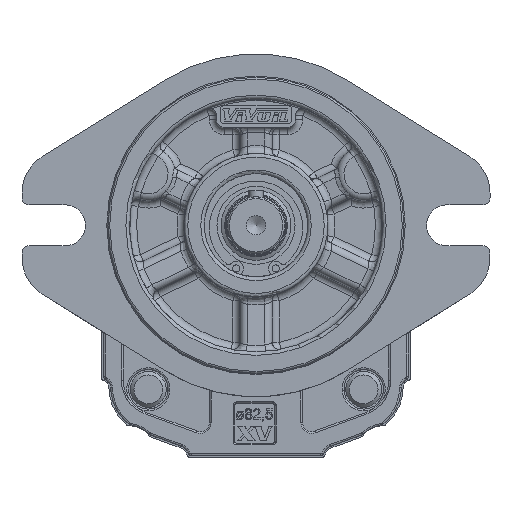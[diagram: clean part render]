
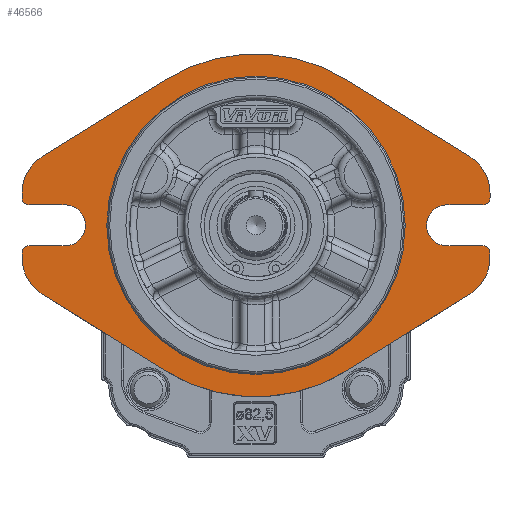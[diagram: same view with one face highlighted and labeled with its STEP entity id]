
A CAD part, front view. The second image highlights one B-rep face of the part: STEP entity #46566.
In plain terms, the highlighted planar face has unit normal (0, -1, 0).
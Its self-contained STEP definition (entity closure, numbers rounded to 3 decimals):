
#2719=LINE('',#65020,#4750);
#2723=LINE('',#65032,#4754);
#2724=LINE('',#65034,#4755);
#2731=LINE('',#65053,#4762);
#2732=LINE('',#65055,#4763);
#2739=LINE('',#65084,#4770);
#2740=LINE('',#65089,#4771);
#2741=LINE('',#65093,#4772);
#2742=LINE('',#65096,#4773);
#2743=LINE('',#65100,#4774);
#2744=LINE('',#65104,#4775);
#2745=LINE('',#65108,#4776);
#4750=VECTOR('',#53579,1000.);
#4754=VECTOR('',#53591,1000.);
#4755=VECTOR('',#53594,1000.);
#4762=VECTOR('',#53609,1000.);
#4763=VECTOR('',#53612,1000.);
#4770=VECTOR('',#53641,1000.);
#4771=VECTOR('',#53644,1000.);
#4772=VECTOR('',#53647,1000.);
#4773=VECTOR('',#53652,1000.);
#4774=VECTOR('',#53655,1000.);
#4775=VECTOR('',#53658,1000.);
#4776=VECTOR('',#53661,1000.);
#6400=PLANE('',#49009);
#9890=ORIENTED_EDGE('',*,*,#18593,.T.);
#9891=ORIENTED_EDGE('',*,*,#18594,.F.);
#9892=ORIENTED_EDGE('',*,*,#18595,.T.);
#9893=ORIENTED_EDGE('',*,*,#18596,.F.);
#9894=ORIENTED_EDGE('',*,*,#18597,.F.);
#9895=ORIENTED_EDGE('',*,*,#18598,.F.);
#9896=ORIENTED_EDGE('',*,*,#18514,.F.);
#9897=ORIENTED_EDGE('',*,*,#18563,.F.);
#9898=ORIENTED_EDGE('',*,*,#18566,.F.);
#9899=ORIENTED_EDGE('',*,*,#18569,.F.);
#9900=ORIENTED_EDGE('',*,*,#18599,.T.);
#9901=ORIENTED_EDGE('',*,*,#18570,.F.);
#9902=ORIENTED_EDGE('',*,*,#18576,.F.);
#9903=ORIENTED_EDGE('',*,*,#18579,.F.);
#9904=ORIENTED_EDGE('',*,*,#18600,.T.);
#9905=ORIENTED_EDGE('',*,*,#18580,.F.);
#9906=ORIENTED_EDGE('',*,*,#18592,.F.);
#9907=ORIENTED_EDGE('',*,*,#18601,.F.);
#9908=ORIENTED_EDGE('',*,*,#18602,.F.);
#9909=ORIENTED_EDGE('',*,*,#18603,.F.);
#9910=ORIENTED_EDGE('',*,*,#18604,.F.);
#9911=ORIENTED_EDGE('',*,*,#18605,.F.);
#9912=ORIENTED_EDGE('',*,*,#18606,.T.);
#9913=ORIENTED_EDGE('',*,*,#18607,.F.);
#9914=ORIENTED_EDGE('',*,*,#18608,.F.);
#18514=EDGE_CURVE('',#23013,#23014,#25601,.T.);
#18563=EDGE_CURVE('',#23056,#23013,#2719,.T.);
#18566=EDGE_CURVE('',#23058,#23056,#25629,.T.);
#18569=EDGE_CURVE('',#23060,#23058,#2723,.T.);
#18570=EDGE_CURVE('',#23061,#23062,#2724,.T.);
#18576=EDGE_CURVE('',#23066,#23061,#25631,.T.);
#18579=EDGE_CURVE('',#23068,#23066,#2731,.T.);
#18580=EDGE_CURVE('',#23069,#23070,#2732,.T.);
#18592=EDGE_CURVE('',#23078,#23069,#25637,.T.);
#18593=EDGE_CURVE('',#23079,#23079,#25638,.T.);
#18594=EDGE_CURVE('',#23080,#23081,#2739,.T.);
#18595=EDGE_CURVE('',#23080,#23082,#25639,.F.);
#18596=EDGE_CURVE('',#23083,#23082,#2740,.T.);
#18597=EDGE_CURVE('',#23084,#23083,#25640,.T.);
#18598=EDGE_CURVE('',#23014,#23084,#2741,.T.);
#18599=EDGE_CURVE('',#23060,#23062,#25641,.F.);
#18600=EDGE_CURVE('',#23068,#23070,#25642,.F.);
#18601=EDGE_CURVE('',#23085,#23078,#2742,.T.);
#18602=EDGE_CURVE('',#23086,#23085,#25643,.T.);
#18603=EDGE_CURVE('',#23087,#23086,#2743,.T.);
#18604=EDGE_CURVE('',#23088,#23087,#25644,.T.);
#18605=EDGE_CURVE('',#23089,#23088,#2744,.T.);
#18606=EDGE_CURVE('',#23089,#23090,#25645,.F.);
#18607=EDGE_CURVE('',#23091,#23090,#2745,.T.);
#18608=EDGE_CURVE('',#23081,#23091,#25646,.T.);
#23013=VERTEX_POINT('',#64920);
#23014=VERTEX_POINT('',#64922);
#23056=VERTEX_POINT('',#65019);
#23058=VERTEX_POINT('',#65025);
#23060=VERTEX_POINT('',#65031);
#23061=VERTEX_POINT('',#65035);
#23062=VERTEX_POINT('',#65036);
#23066=VERTEX_POINT('',#65046);
#23068=VERTEX_POINT('',#65052);
#23069=VERTEX_POINT('',#65056);
#23070=VERTEX_POINT('',#65057);
#23078=VERTEX_POINT('',#65079);
#23079=VERTEX_POINT('',#65083);
#23080=VERTEX_POINT('',#65085);
#23081=VERTEX_POINT('',#65086);
#23082=VERTEX_POINT('',#65088);
#23083=VERTEX_POINT('',#65090);
#23084=VERTEX_POINT('',#65092);
#23085=VERTEX_POINT('',#65097);
#23086=VERTEX_POINT('',#65099);
#23087=VERTEX_POINT('',#65101);
#23088=VERTEX_POINT('',#65103);
#23089=VERTEX_POINT('',#65105);
#23090=VERTEX_POINT('',#65107);
#23091=VERTEX_POINT('',#65109);
#25601=CIRCLE('',#48958,47.75);
#25629=CIRCLE('',#48992,12.);
#25631=CIRCLE('',#48997,5.7);
#25637=CIRCLE('',#49008,12.);
#25638=CIRCLE('',#49010,40.982);
#25639=CIRCLE('',#49011,2.);
#25640=CIRCLE('',#49012,12.);
#25641=CIRCLE('',#49013,2.);
#25642=CIRCLE('',#49014,2.);
#25643=CIRCLE('',#49015,47.75);
#25644=CIRCLE('',#49016,12.);
#25645=CIRCLE('',#49017,2.);
#25646=CIRCLE('',#49018,5.7);
#27283=EDGE_LOOP('',(#9890));
#27284=EDGE_LOOP('',(#9891,#9892,#9893,#9894,#9895,#9896,#9897,#9898,#9899,
#9900,#9901,#9902,#9903,#9904,#9905,#9906,#9907,#9908,#9909,#9910,#9911,
#9912,#9913,#9914));
#29550=FACE_BOUND('',#27283,.T.);
#29551=FACE_BOUND('',#27284,.T.);
#46566=ADVANCED_FACE('',(#29550,#29551),#6400,.F.);
#48958=AXIS2_PLACEMENT_3D('',#64921,#53495,#53496);
#48992=AXIS2_PLACEMENT_3D('',#65026,#53585,#53586);
#48997=AXIS2_PLACEMENT_3D('',#65047,#53603,#53604);
#49008=AXIS2_PLACEMENT_3D('',#65080,#53635,#53636);
#49009=AXIS2_PLACEMENT_3D('',#65081,#53637,#53638);
#49010=AXIS2_PLACEMENT_3D('',#65082,#53639,#53640);
#49011=AXIS2_PLACEMENT_3D('',#65087,#53642,#53643);
#49012=AXIS2_PLACEMENT_3D('',#65091,#53645,#53646);
#49013=AXIS2_PLACEMENT_3D('',#65094,#53648,#53649);
#49014=AXIS2_PLACEMENT_3D('',#65095,#53650,#53651);
#49015=AXIS2_PLACEMENT_3D('',#65098,#53653,#53654);
#49016=AXIS2_PLACEMENT_3D('',#65102,#53656,#53657);
#49017=AXIS2_PLACEMENT_3D('',#65106,#53659,#53660);
#49018=AXIS2_PLACEMENT_3D('',#65110,#53662,#53663);
#53495=DIRECTION('',(0.,1.,0.));
#53496=DIRECTION('',(-1.,0.,0.));
#53579=DIRECTION('',(-0.849,0.,-0.528));
#53585=DIRECTION('',(0.,1.,0.));
#53586=DIRECTION('',(-1.,0.,0.));
#53591=DIRECTION('',(0.,0.,-1.));
#53594=DIRECTION('',(1.,0.,0.));
#53603=DIRECTION('',(0.,-1.,0.));
#53604=DIRECTION('',(1.,0.,0.));
#53609=DIRECTION('',(-1.,0.,0.));
#53612=DIRECTION('',(0.,0.,-1.));
#53635=DIRECTION('',(0.,1.,0.));
#53636=DIRECTION('',(-1.,0.,0.));
#53637=DIRECTION('',(0.,1.,0.));
#53638=DIRECTION('',(0.,0.,-1.));
#53639=DIRECTION('',(0.,1.,0.));
#53640=DIRECTION('',(-1.,0.,0.));
#53641=DIRECTION('',(1.,0.,0.));
#53642=DIRECTION('',(0.,1.,0.));
#53643=DIRECTION('',(0.,0.,-1.));
#53644=DIRECTION('',(0.,0.,1.));
#53645=DIRECTION('',(0.,1.,0.));
#53646=DIRECTION('',(1.,0.,0.));
#53647=DIRECTION('',(-0.849,0.,0.528));
#53648=DIRECTION('',(0.,1.,0.));
#53649=DIRECTION('',(0.,0.,-1.));
#53650=DIRECTION('',(0.,1.,0.));
#53651=DIRECTION('',(0.,0.,-1.));
#53652=DIRECTION('',(0.849,0.,-0.528));
#53653=DIRECTION('',(0.,1.,0.));
#53654=DIRECTION('',(-1.,0.,0.));
#53655=DIRECTION('',(0.849,0.,0.528));
#53656=DIRECTION('',(0.,1.,0.));
#53657=DIRECTION('',(1.,0.,0.));
#53658=DIRECTION('',(0.,0.,1.));
#53659=DIRECTION('',(0.,1.,0.));
#53660=DIRECTION('',(0.,0.,-1.));
#53661=DIRECTION('',(-1.,0.,0.));
#53662=DIRECTION('',(0.,-1.,0.));
#53663=DIRECTION('',(-1.,0.,0.));
#64920=CARTESIAN_POINT('',(25.235,-19.,-24.837));
#64921=CARTESIAN_POINT('',(0.,-19.,15.7));
#64922=CARTESIAN_POINT('',(-25.235,-19.,-24.837));
#65019=CARTESIAN_POINT('',(59.532,-19.,-3.487));
#65020=CARTESIAN_POINT('',(59.532,-19.,-3.487));
#65025=CARTESIAN_POINT('',(65.19,-19.,6.7));
#65026=CARTESIAN_POINT('',(53.19,-19.,6.7));
#65031=CARTESIAN_POINT('',(65.19,-19.,8.));
#65032=CARTESIAN_POINT('',(65.19,-19.,6.7));
#65034=CARTESIAN_POINT('',(53.19,-19.,10.));
#65035=CARTESIAN_POINT('',(53.19,-19.,10.));
#65036=CARTESIAN_POINT('',(63.19,-19.,10.));
#65046=CARTESIAN_POINT('',(53.19,-19.,21.4));
#65047=CARTESIAN_POINT('',(53.19,-19.,15.7));
#65052=CARTESIAN_POINT('',(63.19,-19.,21.4));
#65053=CARTESIAN_POINT('',(53.19,-19.,21.4));
#65055=CARTESIAN_POINT('',(65.19,-19.,24.7));
#65056=CARTESIAN_POINT('',(65.19,-19.,24.7));
#65057=CARTESIAN_POINT('',(65.19,-19.,23.4));
#65079=CARTESIAN_POINT('',(59.532,-19.,34.887));
#65080=CARTESIAN_POINT('',(53.19,-19.,24.7));
#65081=CARTESIAN_POINT('',(0.,-19.,15.7));
#65082=CARTESIAN_POINT('',(0.,-19.,15.7));
#65083=CARTESIAN_POINT('',(-40.982,-19.,15.7));
#65084=CARTESIAN_POINT('',(-53.19,-19.,10.));
#65085=CARTESIAN_POINT('',(-63.19,-19.,10.));
#65086=CARTESIAN_POINT('',(-53.19,-19.,10.));
#65087=CARTESIAN_POINT('',(-63.19,-19.,8.));
#65088=CARTESIAN_POINT('',(-65.19,-19.,8.));
#65089=CARTESIAN_POINT('',(-65.19,-19.,6.7));
#65090=CARTESIAN_POINT('',(-65.19,-19.,6.7));
#65091=CARTESIAN_POINT('',(-53.19,-19.,6.7));
#65092=CARTESIAN_POINT('',(-59.532,-19.,-3.487));
#65093=CARTESIAN_POINT('',(-59.532,-19.,-3.487));
#65094=CARTESIAN_POINT('',(63.19,-19.,8.));
#65095=CARTESIAN_POINT('',(63.19,-19.,23.4));
#65096=CARTESIAN_POINT('',(25.235,-19.,56.237));
#65097=CARTESIAN_POINT('',(25.235,-19.,56.237));
#65098=CARTESIAN_POINT('',(0.,-19.,15.7));
#65099=CARTESIAN_POINT('',(-25.235,-19.,56.237));
#65100=CARTESIAN_POINT('',(-25.235,-19.,56.237));
#65101=CARTESIAN_POINT('',(-59.532,-19.,34.887));
#65102=CARTESIAN_POINT('',(-53.19,-19.,24.7));
#65103=CARTESIAN_POINT('',(-65.19,-19.,24.7));
#65104=CARTESIAN_POINT('',(-65.19,-19.,24.7));
#65105=CARTESIAN_POINT('',(-65.19,-19.,23.4));
#65106=CARTESIAN_POINT('',(-63.19,-19.,23.4));
#65107=CARTESIAN_POINT('',(-63.19,-19.,21.4));
#65108=CARTESIAN_POINT('',(-53.19,-19.,21.4));
#65109=CARTESIAN_POINT('',(-53.19,-19.,21.4));
#65110=CARTESIAN_POINT('',(-53.19,-19.,15.7));
